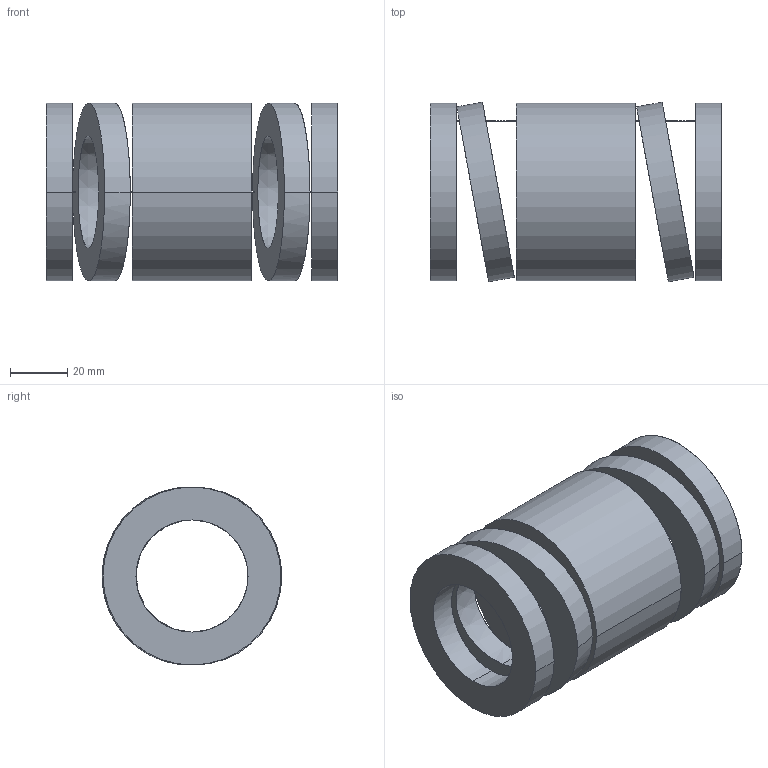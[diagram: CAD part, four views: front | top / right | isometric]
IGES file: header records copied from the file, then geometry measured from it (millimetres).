
Start section: START RECORD GO HERE.
Global section: file name: 392-B63-102.igs; native system: DASSAULT SYSTEMES CATIA V5 R20 - www.3ds.com; preprocessor: CATIA Version 5 Release 20 ; author: Utente; organization: NB04-ASUS; date: 20210813.135906; units: millimetre
Bounding box: 102 x 62.83 x 62.2 mm (x, y, z)
Surface area: 43232.3 mm2 (no closed solid volume)
Topology: 0 solids, 0 shells, 38 faces, 184 edges, 184 vertices
Faces by surface type: revolution 28, plane 10
